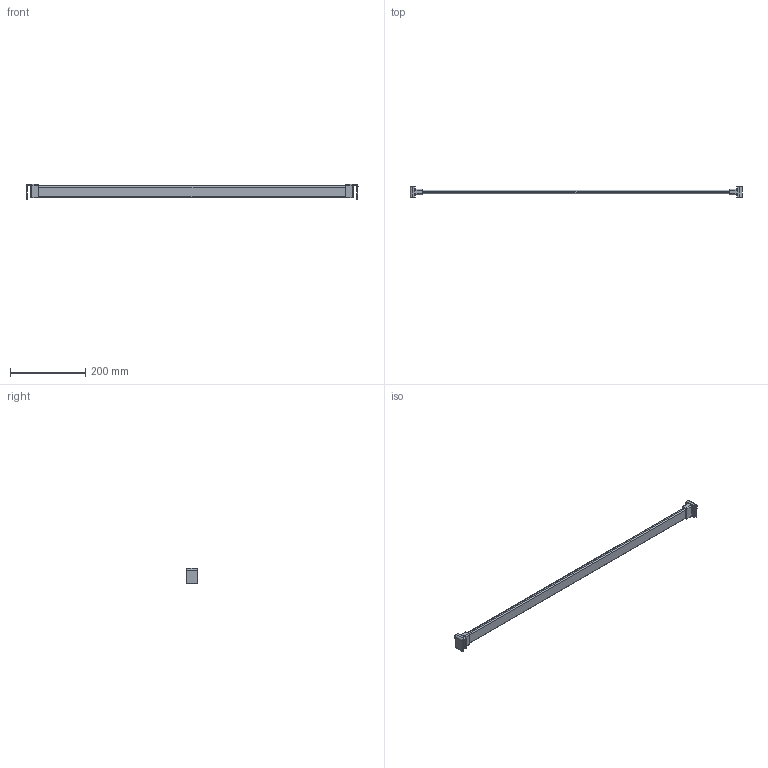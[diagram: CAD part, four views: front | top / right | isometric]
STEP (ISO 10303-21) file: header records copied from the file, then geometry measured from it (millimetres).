
FILE_DESCRIPTION (( 'STEP AP214' ), '1' );
FILE_NAME ('_Querreling_KAB-950_KS-19_P602_Glashalter.step', '2010-08-26T14:58:54', ( 'grass' ), ( '' ), 'SwSTEP 2.0', 'SolidWorks 2009', '' );
FILE_SCHEMA (( 'AUTOMOTIVE_DESIGN' ));
Length unit declared in the file: millimetre
Products named in the file (1): _Querreling_KAB-950_KS-19_P602_Glashalter
Bounding box: 884.78 x 30 x 41.5 mm (x, y, z)
Volume: 287979.1 mm3; surface area: 77162.1 mm2
Topology: 1 solids, 1 shells, 124 faces, 300 edges, 176 vertices
Faces by surface type: cylinder 58, plane 34, torus 16, bspline 12, sphere 4
Entity records: 5090 total; most frequent: CARTESIAN_POINT 2269, ORIENTED_EDGE 592, DIRECTION 590, EDGE_CURVE 296, AXIS2_PLACEMENT_3D 225, VERTEX_POINT 176, LINE 140, VECTOR 140
